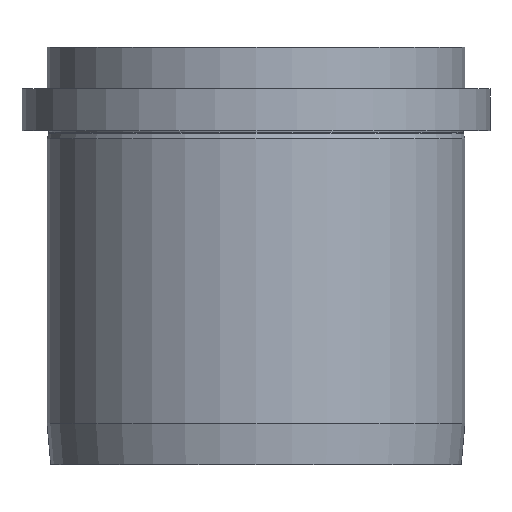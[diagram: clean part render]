
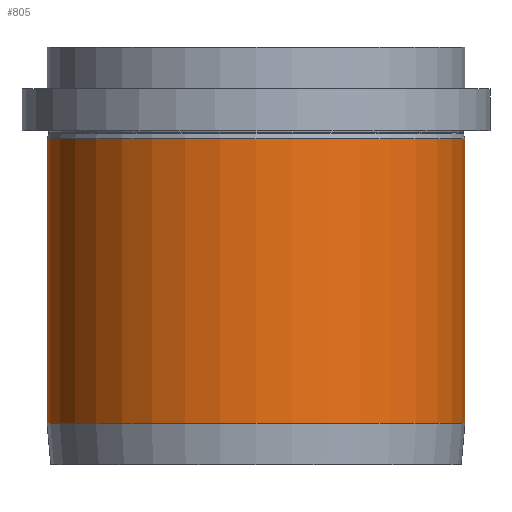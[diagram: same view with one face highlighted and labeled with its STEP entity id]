
A CAD part, left-side view. The second image highlights one B-rep face of the part: STEP entity #805.
In plain terms, the highlighted cylindrical face has radius 50 mm (diameter 100 mm), a partial arc.
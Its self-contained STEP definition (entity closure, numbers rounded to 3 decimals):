
#172=CARTESIAN_POINT('Axis2P3D Location',(0.,0.,50.)) ;
#568=CARTESIAN_POINT('Vertex',(0.,-50.,78.)) ;
#575=CARTESIAN_POINT('Vertex',(0.,50.,78.)) ;
#590=CARTESIAN_POINT('Axis2P3D Location',(0.,0.,78.)) ;
#606=CARTESIAN_POINT('Vertex',(0.,-50.,74.)) ;
#608=CARTESIAN_POINT('Vertex',(0.,50.,74.)) ;
#611=CARTESIAN_POINT('Line Origine',(0.,50.,50.)) ;
#616=CARTESIAN_POINT('Line Origine',(0.,-50.,50.)) ;
#749=CARTESIAN_POINT('Axis2P3D Location',(0.,0.,10.)) ;
#753=CARTESIAN_POINT('Vertex',(0.,50.,10.)) ;
#755=CARTESIAN_POINT('Vertex',(0.,-50.,10.)) ;
#787=CARTESIAN_POINT('Line Origine',(0.,50.,50.)) ;
#792=CARTESIAN_POINT('Line Origine',(0.,-50.,50.)) ;
#173=DIRECTION('Axis2P3D Direction',(0.,0.,1.)) ;
#174=DIRECTION('Axis2P3D XDirection',(0.,-1.,0.)) ;
#591=DIRECTION('Axis2P3D Direction',(0.,-0.,-1.)) ;
#612=DIRECTION('Vector Direction',(0.,0.,1.)) ;
#617=DIRECTION('Vector Direction',(0.,0.,1.)) ;
#750=DIRECTION('Axis2P3D Direction',(0.,0.,1.)) ;
#788=DIRECTION('Vector Direction',(0.,0.,1.)) ;
#793=DIRECTION('Vector Direction',(0.,0.,1.)) ;
#175=AXIS2_PLACEMENT_3D('Cylinder Axis2P3D',#172,#173,#174) ;
#592=AXIS2_PLACEMENT_3D('Circle Axis2P3D',#590,#591,$) ;
#751=AXIS2_PLACEMENT_3D('Circle Axis2P3D',#749,#750,$) ;
#798=ORIENTED_EDGE('',*,*,#791,.F.) ;
#799=ORIENTED_EDGE('',*,*,#757,.T.) ;
#800=ORIENTED_EDGE('',*,*,#796,.T.) ;
#801=ORIENTED_EDGE('',*,*,#620,.F.) ;
#802=ORIENTED_EDGE('',*,*,#594,.F.) ;
#803=ORIENTED_EDGE('',*,*,#615,.T.) ;
#613=VECTOR('Line Direction',#612,1.) ;
#618=VECTOR('Line Direction',#617,1.) ;
#789=VECTOR('Line Direction',#788,1.) ;
#794=VECTOR('Line Direction',#793,1.) ;
#805=ADVANCED_FACE('PartBody',(#804),#176,.T.) ;
#593=CIRCLE('generated circle',#592,50.) ;
#752=CIRCLE('generated circle',#751,50.) ;
#176=CYLINDRICAL_SURFACE('generated cylinder',#175,50.) ;
#594=EDGE_CURVE('',#576,#569,#593,.F.) ;
#615=EDGE_CURVE('',#576,#609,#614,.F.) ;
#620=EDGE_CURVE('',#569,#607,#619,.F.) ;
#757=EDGE_CURVE('',#754,#756,#752,.T.) ;
#791=EDGE_CURVE('',#754,#609,#790,.T.) ;
#796=EDGE_CURVE('',#756,#607,#795,.T.) ;
#797=EDGE_LOOP('',(#798,#799,#800,#801,#802,#803)) ;
#804=FACE_OUTER_BOUND('',#797,.T.) ;
#614=LINE('Line',#611,#613) ;
#619=LINE('Line',#616,#618) ;
#790=LINE('Line',#787,#789) ;
#795=LINE('Line',#792,#794) ;
#569=VERTEX_POINT('',#568) ;
#576=VERTEX_POINT('',#575) ;
#607=VERTEX_POINT('',#606) ;
#609=VERTEX_POINT('',#608) ;
#754=VERTEX_POINT('',#753) ;
#756=VERTEX_POINT('',#755) ;
